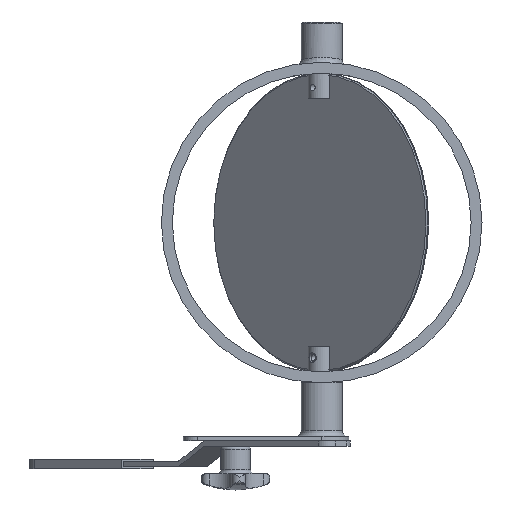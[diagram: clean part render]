
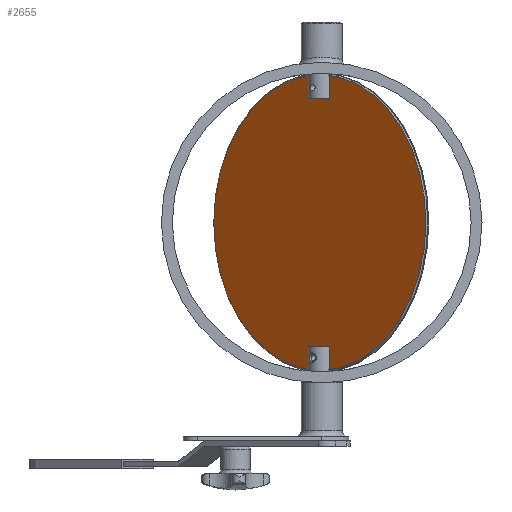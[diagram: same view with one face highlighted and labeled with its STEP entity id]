
A CAD part, front view. The second image highlights one B-rep face of the part: STEP entity #2655.
In plain terms, the highlighted planar face has unit normal (-0.698, -0.716, 0) as drawn and (0, 0, -1) by its records, which use the part's own axes.
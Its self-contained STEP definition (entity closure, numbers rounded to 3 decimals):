
#2613=CARTESIAN_POINT('',(161.557,0.,0.0));
#2614=VERTEX_POINT('',#2613);
#2615=CARTESIAN_POINT('',(53.057,0.,0.0));
#2616=DIRECTION('',(0.0,0.0,1.0));
#2617=DIRECTION('',(-1.0,0.0,0.0));
#2618=AXIS2_PLACEMENT_3D('',#2615,#2616,#2617);
#2619=CIRCLE('',#2618,108.5);
#2620=EDGE_CURVE('',#2614,#2614,#2619,.T.);
#2625=CARTESIAN_POINT('',(53.057,0.,0.0));
#2626=DIRECTION('',(0.0,0.0,-1.0));
#2627=DIRECTION('',(-1.0,0.0,0.0));
#2628=AXIS2_PLACEMENT_3D('',#2625,#2626,#2627);
#2629=PLANE('',#2628);
#2630=ORIENTED_EDGE('',*,*,#2620,.F.);
#2631=EDGE_LOOP('',(#2630));
#2632=FACE_OUTER_BOUND('',#2631,.T.);
#2633=CARTESIAN_POINT('',(-42.943,0.,0.0));
#2634=VERTEX_POINT('',#2633);
#2635=CARTESIAN_POINT('',(-45.943,0.,0.0));
#2636=DIRECTION('',(0.0,0.0,1.0));
#2637=DIRECTION('',(-1.0,0.0,0.0));
#2638=AXIS2_PLACEMENT_3D('',#2635,#2636,#2637);
#2639=CIRCLE('',#2638,3.);
#2640=EDGE_CURVE('',#2634,#2634,#2639,.T.);
#2641=ORIENTED_EDGE('',*,*,#2640,.T.);
#2642=EDGE_LOOP('',(#2641));
#2643=FACE_BOUND('',#2642,.T.);
#2644=CARTESIAN_POINT('',(155.057,0.,0.0));
#2645=VERTEX_POINT('',#2644);
#2646=CARTESIAN_POINT('',(152.057,0.,0.0));
#2647=DIRECTION('',(0.0,0.0,1.0));
#2648=DIRECTION('',(-1.0,0.0,0.0));
#2649=AXIS2_PLACEMENT_3D('',#2646,#2647,#2648);
#2650=CIRCLE('',#2649,3.);
#2651=EDGE_CURVE('',#2645,#2645,#2650,.T.);
#2652=ORIENTED_EDGE('',*,*,#2651,.T.);
#2653=EDGE_LOOP('',(#2652));
#2654=FACE_BOUND('',#2653,.T.);
#2655=ADVANCED_FACE('',(#2632,#2643,#2654),#2629,.T.);
